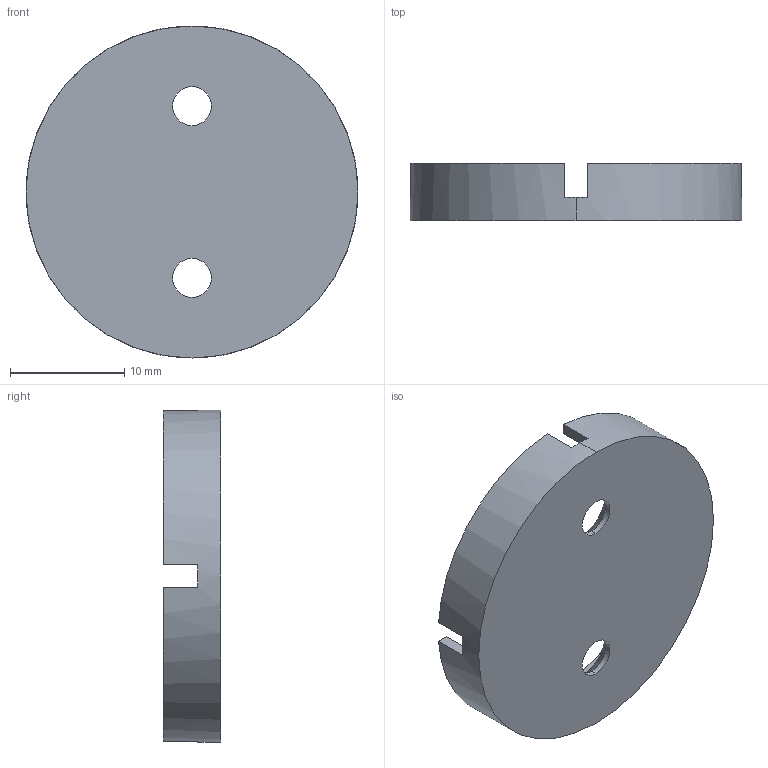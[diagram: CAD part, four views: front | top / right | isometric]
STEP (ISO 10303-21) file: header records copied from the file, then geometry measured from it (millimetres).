
FILE_DESCRIPTION (( 'STEP AP203' ), '1' );
FILE_NAME ('蚧竊.741474.084-01 扰鵽.Step', '2018-09-19T07:05:12', ( '' ), ( '' ), 'SwSTEP 2.0', 'SolidWorks 2017', '' );
FILE_SCHEMA (( 'CONFIG_CONTROL_DESIGN' ));
Length unit declared in the file: millimetre
Products named in the file (1): 蚧竊.741474.084-01 扰鵽
Bounding box: 29 x 5 x 29 mm (x, y, z)
Volume: 1495.8 mm3; surface area: 2000.8 mm2
Topology: 1 solids, 1 shells, 28 faces, 74 edges, 48 vertices
Faces by surface type: plane 14, cylinder 10, cone 4
Entity records: 963 total; most frequent: DIRECTION 164, CARTESIAN_POINT 151, ORIENTED_EDGE 148, EDGE_CURVE 74, AXIS2_PLACEMENT_3D 61, VERTEX_POINT 48, VECTOR 42, LINE 42
